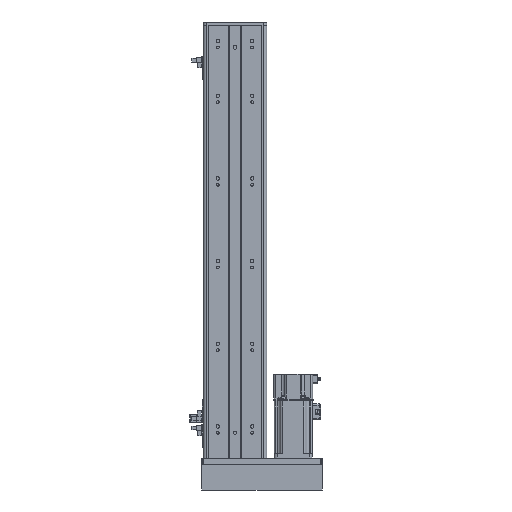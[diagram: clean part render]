
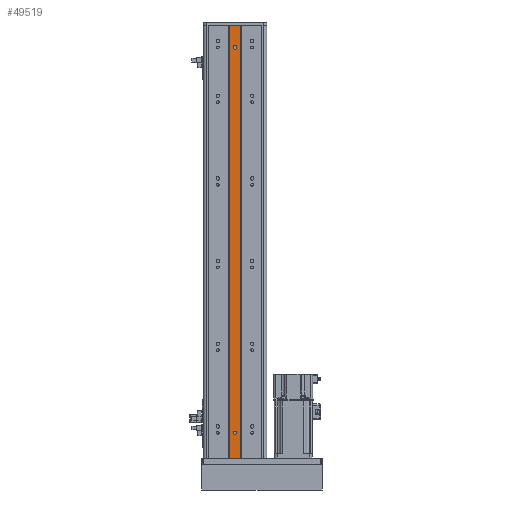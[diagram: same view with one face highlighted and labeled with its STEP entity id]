
A CAD part, front view. The second image highlights one B-rep face of the part: STEP entity #49519.
In plain terms, the highlighted planar face has unit normal (0, -1, 0).
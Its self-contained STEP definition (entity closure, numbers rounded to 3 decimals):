
#141 = CARTESIAN_POINT ( 'NONE',  ( 9., 1.309, 811. ) ) ;
#522 = CARTESIAN_POINT ( 'NONE',  ( -2.5, 1.309, 776.5 ) ) ;
#1928 = DIRECTION ( 'NONE',  ( 0., 1., 0. ) ) ;
#3313 = DIRECTION ( 'NONE',  ( 0., 1., 0. ) ) ;
#4651 = VERTEX_POINT ( 'NONE', #29930 ) ;
#5555 = EDGE_CURVE ( 'NONE', #11132, #6641, #66841, .T. ) ;
#6009 = FACE_OUTER_BOUND ( 'NONE', #52485, .T. ) ;
#6016 = ORIENTED_EDGE ( 'NONE', *, *, #46238, .F. ) ;
#6512 = ORIENTED_EDGE ( 'NONE', *, *, #25400, .T. ) ;
#6641 = VERTEX_POINT ( 'NONE', #59793 ) ;
#6849 = DIRECTION ( 'NONE',  ( 0., 0., 1. ) ) ;
#7143 = ORIENTED_EDGE ( 'NONE', *, *, #68863, .F. ) ;
#8601 = CARTESIAN_POINT ( 'NONE',  ( -9., 1.309, 811. ) ) ;
#10683 = DIRECTION ( 'NONE',  ( 0., 0., -1. ) ) ;
#10778 = CARTESIAN_POINT ( 'NONE',  ( 0., 1.309, 130. ) ) ;
#11068 = LINE ( 'NONE', #8601, #18578 ) ;
#11132 = VERTEX_POINT ( 'NONE', #57000 ) ;
#11939 = CARTESIAN_POINT ( 'NONE',  ( -9., 1.309, 811. ) ) ;
#12297 = LINE ( 'NONE', #16790, #19843 ) ;
#15044 = AXIS2_PLACEMENT_3D ( 'NONE', #64666, #50165, #61153 ) ;
#16351 = AXIS2_PLACEMENT_3D ( 'NONE', #33925, #1928, #6849 ) ;
#16790 = CARTESIAN_POINT ( 'NONE',  ( -9., 1.309, 811. ) ) ;
#16882 = FACE_BOUND ( 'NONE', #22688, .T. ) ;
#17481 = VECTOR ( 'NONE', #10683, 1000. ) ;
#18042 = EDGE_CURVE ( 'NONE', #6641, #11132, #54283, .T. ) ;
#18578 = VECTOR ( 'NONE', #24008, 1000. ) ;
#19843 = VECTOR ( 'NONE', #27746, 1000. ) ;
#19914 = VECTOR ( 'NONE', #48786, 1000. ) ;
#20241 = VERTEX_POINT ( 'NONE', #43408 ) ;
#22688 = EDGE_LOOP ( 'NONE', ( #6512, #59142, #48890, #42996 ) ) ;
#24008 = DIRECTION ( 'NONE',  ( 1., 0., 0. ) ) ;
#24204 = EDGE_CURVE ( 'NONE', #30525, #26525, #43726, .T. ) ;
#24793 = ORIENTED_EDGE ( 'NONE', *, *, #41075, .F. ) ;
#25400 = EDGE_CURVE ( 'NONE', #20241, #30525, #28212, .T. ) ;
#26088 = FACE_BOUND ( 'NONE', #39333, .T. ) ;
#26525 = VERTEX_POINT ( 'NONE', #51441 ) ;
#27746 = DIRECTION ( 'NONE',  ( 0., 0., -1. ) ) ;
#28212 = LINE ( 'NONE', #54687, #47469 ) ;
#28881 = CARTESIAN_POINT ( 'NONE',  ( 2.5, 1.309, 811. ) ) ;
#29014 = DIRECTION ( 'NONE',  ( 0., 0., 1. ) ) ;
#29930 = CARTESIAN_POINT ( 'NONE',  ( 2.5, 1.309, 775.5 ) ) ;
#29952 = LINE ( 'NONE', #10778, #19914 ) ;
#30525 = VERTEX_POINT ( 'NONE', #522 ) ;
#30640 = PLANE ( 'NONE',  #36476 ) ;
#30860 = VERTEX_POINT ( 'NONE', #35990 ) ;
#32109 = ORIENTED_EDGE ( 'NONE', *, *, #60955, .T. ) ;
#33925 = CARTESIAN_POINT ( 'NONE',  ( 0., 1.309, 170. ) ) ;
#35195 = CARTESIAN_POINT ( 'NONE',  ( 0., 1.309, 170. ) ) ;
#35990 = CARTESIAN_POINT ( 'NONE',  ( 9., 1.309, 130. ) ) ;
#36141 = DIRECTION ( 'NONE',  ( 0., 0., 1. ) ) ;
#36144 = VERTEX_POINT ( 'NONE', #63585 ) ;
#36476 = AXIS2_PLACEMENT_3D ( 'NONE', #56775, #3313, #46061 ) ;
#36865 = DIRECTION ( 'NONE',  ( 0., 1., 0. ) ) ;
#37898 = AXIS2_PLACEMENT_3D ( 'NONE', #35195, #40554, #36141 ) ;
#39333 = EDGE_LOOP ( 'NONE', ( #65822, #49313 ) ) ;
#40554 = DIRECTION ( 'NONE',  ( 0., 1., 0. ) ) ;
#41075 = EDGE_CURVE ( 'NONE', #30860, #36144, #29952, .T. ) ;
#41249 = LINE ( 'NONE', #28881, #45427 ) ;
#42996 = ORIENTED_EDGE ( 'NONE', *, *, #56853, .T. ) ;
#43057 = CARTESIAN_POINT ( 'NONE',  ( 9., 1.309, 811. ) ) ;
#43408 = CARTESIAN_POINT ( 'NONE',  ( -2.5, 1.309, 775.5 ) ) ;
#43726 = CIRCLE ( 'NONE', #15044, 2.5 ) ;
#45427 = VECTOR ( 'NONE', #65995, 1000. ) ;
#46061 = DIRECTION ( 'NONE',  ( 0., 0., 1. ) ) ;
#46238 = EDGE_CURVE ( 'NONE', #55274, #53717, #11068, .T. ) ;
#47469 = VECTOR ( 'NONE', #29014, 1000. ) ;
#48786 = DIRECTION ( 'NONE',  ( -1., 0., 0. ) ) ;
#48890 = ORIENTED_EDGE ( 'NONE', *, *, #55838, .T. ) ;
#49206 = LINE ( 'NONE', #141, #17481 ) ;
#49313 = ORIENTED_EDGE ( 'NONE', *, *, #5555, .T. ) ;
#49519 = ADVANCED_FACE ( 'NONE', ( #16882, #26088, #6009 ), #30640, .F. ) ;
#50165 = DIRECTION ( 'NONE',  ( 0., 1., 0. ) ) ;
#51441 = CARTESIAN_POINT ( 'NONE',  ( 2.5, 1.309, 776.5 ) ) ;
#52485 = EDGE_LOOP ( 'NONE', ( #24793, #7143, #6016, #32109 ) ) ;
#53180 = CARTESIAN_POINT ( 'NONE',  ( 0., 1.309, 775.5 ) ) ;
#53717 = VERTEX_POINT ( 'NONE', #43057 ) ;
#54283 = CIRCLE ( 'NONE', #37898, 2.5 ) ;
#54687 = CARTESIAN_POINT ( 'NONE',  ( -2.5, 1.309, 811. ) ) ;
#55274 = VERTEX_POINT ( 'NONE', #11939 ) ;
#55838 = EDGE_CURVE ( 'NONE', #26525, #4651, #41249, .T. ) ;
#56236 = CIRCLE ( 'NONE', #56993, 2.5 ) ;
#56775 = CARTESIAN_POINT ( 'NONE',  ( 0., 1.309, 811. ) ) ;
#56853 = EDGE_CURVE ( 'NONE', #4651, #20241, #56236, .T. ) ;
#56993 = AXIS2_PLACEMENT_3D ( 'NONE', #53180, #36865, #68631 ) ;
#57000 = CARTESIAN_POINT ( 'NONE',  ( -2.5, 1.309, 170. ) ) ;
#59142 = ORIENTED_EDGE ( 'NONE', *, *, #24204, .T. ) ;
#59793 = CARTESIAN_POINT ( 'NONE',  ( 2.5, 1.309, 170. ) ) ;
#60955 = EDGE_CURVE ( 'NONE', #55274, #36144, #12297, .T. ) ;
#61153 = DIRECTION ( 'NONE',  ( 0., 0., 1. ) ) ;
#63585 = CARTESIAN_POINT ( 'NONE',  ( -9., 1.309, 130. ) ) ;
#64666 = CARTESIAN_POINT ( 'NONE',  ( 0., 1.309, 776.5 ) ) ;
#65822 = ORIENTED_EDGE ( 'NONE', *, *, #18042, .T. ) ;
#65995 = DIRECTION ( 'NONE',  ( 0., 0., -1. ) ) ;
#66841 = CIRCLE ( 'NONE', #16351, 2.5 ) ;
#68631 = DIRECTION ( 'NONE',  ( 0., 0., 1. ) ) ;
#68863 = EDGE_CURVE ( 'NONE', #53717, #30860, #49206, .T. ) ;
